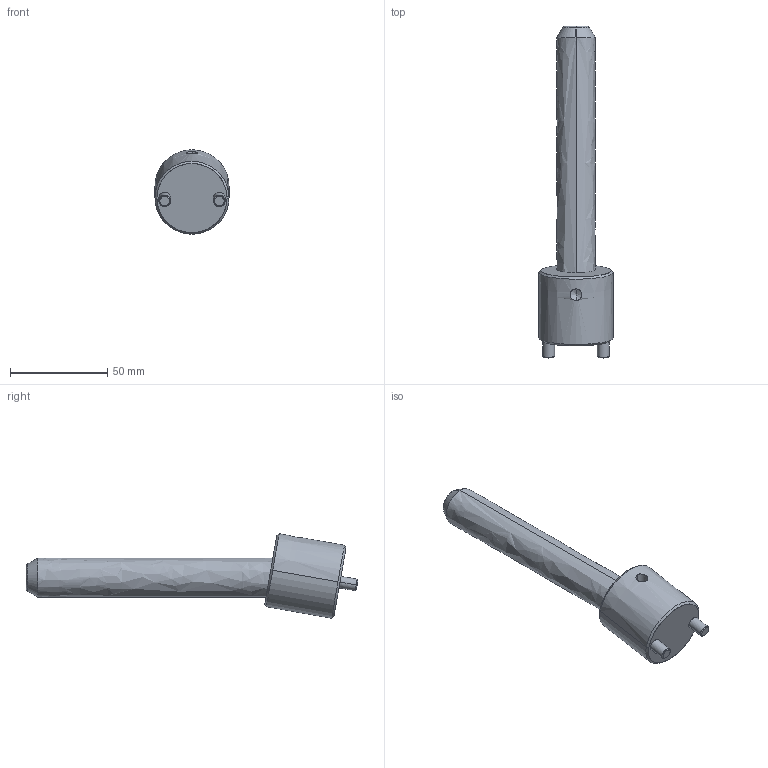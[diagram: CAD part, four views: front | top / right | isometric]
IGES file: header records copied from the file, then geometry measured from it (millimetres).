
Start section: START RECORD GO HERE.
Global section: file name: CI1020125.igs; native system: DASSAULT SYSTEMES CATIA V5 R20 - www.3ds.com; preprocessor: CATIA Version 5 Release 20 ; author: r.borello; organization: CFTORINO; date: 20190621.155523; units: millimetre
Bounding box: 38 x 170.45 x 43.33 mm (x, y, z)
Surface area: 19025 mm2 (no closed solid volume)
Topology: 0 solids, 0 shells, 39 faces, 162 edges, 160 vertices
Faces by surface type: revolution 32, plane 7
